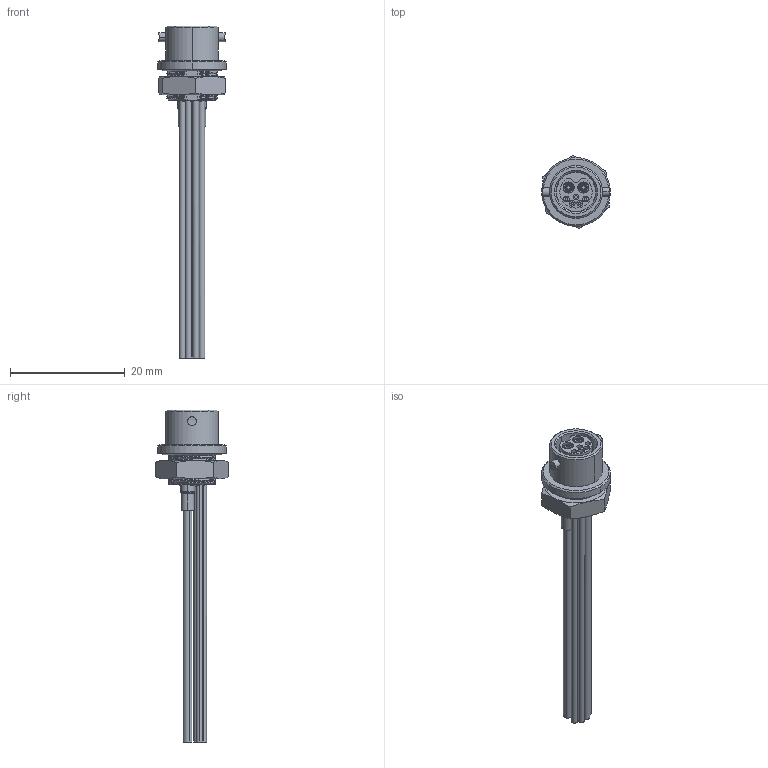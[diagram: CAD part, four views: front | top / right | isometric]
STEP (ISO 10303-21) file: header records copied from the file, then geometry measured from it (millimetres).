
FILE_DESCRIPTION (( 'STEP AP214' ), '1' );
FILE_NAME ('A90159-001 REV A.STEP', '2021-03-03T22:55:12', ( '' ), ( '' ), 'SwSTEP 2.0', 'SolidWorks 2019', '' );
FILE_SCHEMA (( 'AUTOMOTIVE_DESIGN' ));
Length unit declared in the file: inch
Products named in the file (1): A90159-001 REV A
Bounding box: 12 x 12.77 x 57.91 mm (x, y, z)
Volume: 1293.5 mm3; surface area: 2850.7 mm2
Topology: 1 solids, 3 shells, 349 faces, 912 edges, 591 vertices
Faces by surface type: cylinder 150, bspline 74, plane 57, cone 54, torus 10, sphere 4
Entity records: 44634 total; most frequent: CARTESIAN_POINT 32323, ORIENTED_EDGE 1824, DIRECTION 1342, EDGE_CURVE 912, VERTEX_POINT 591, AXIS2_PLACEMENT_3D 561, EDGE_LOOP 411, LENGTH_MEASURE_WITH_UNIT 352
